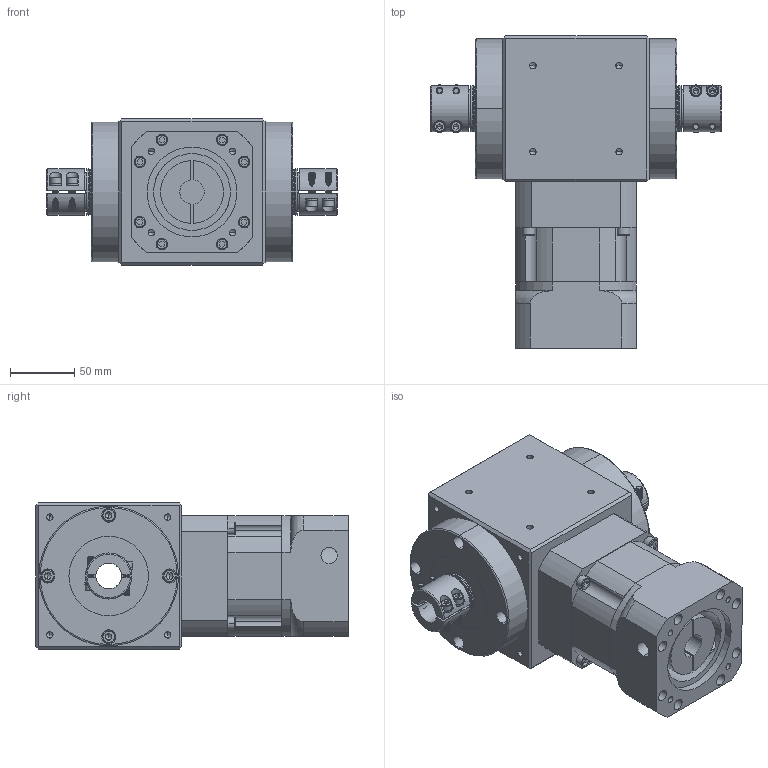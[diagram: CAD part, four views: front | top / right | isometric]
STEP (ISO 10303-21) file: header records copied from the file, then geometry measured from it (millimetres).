
FILE_DESCRIPTION (( 'STEP AP214' ), '1' );
FILE_NAME ('RAM090-L1-XX-D-19-70-90-M6_2019.STEP', '2019-04-09T02:46:22', ( 'Y' ), ( 'NCU' ), 'SwSTEP 2.0', 'SolidWorks 2016', '' );
FILE_SCHEMA (( 'AUTOMOTIVE_DESIGN' ));
Length unit declared in the file: millimetre
Products named in the file (1): RAM090-L1-XX-D-19-70-90-M6_2019
Bounding box: 227 x 244 x 114 mm (x, y, z)
Volume: 2790648.4 mm3; surface area: 255914.5 mm2
Topology: 3 solids, 11 shells, 1355 faces, 3613 edges, 2184 vertices
Faces by surface type: cylinder 580, plane 500, cone 131, bspline 92, torus 52
Entity records: 119525 total; most frequent: CARTESIAN_POINT 87487, ORIENTED_EDGE 7066, DIRECTION 5919, EDGE_CURVE 3533, AXIS2_PLACEMENT_3D 2224, VERTEX_POINT 2184, EDGE_LOOP 1525, VECTOR 1471
